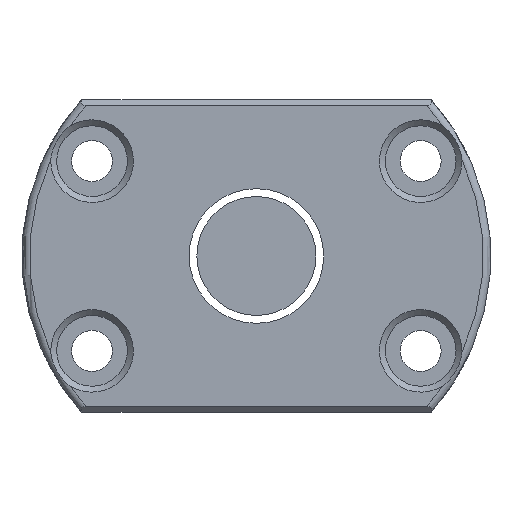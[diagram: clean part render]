
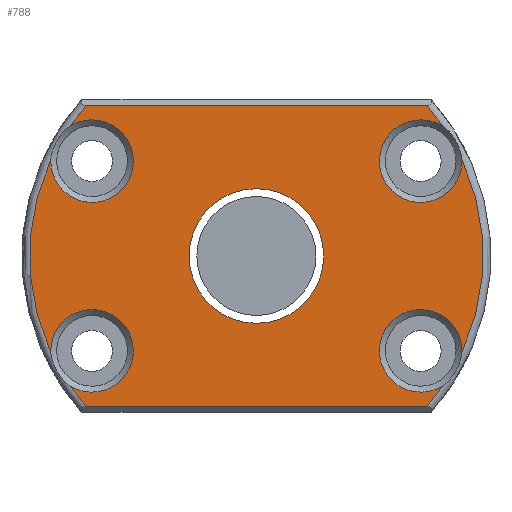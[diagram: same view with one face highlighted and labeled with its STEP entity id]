
A CAD part, left-side view. The second image highlights one B-rep face of the part: STEP entity #788.
In plain terms, the highlighted planar face has unit normal (-1, 0, 0).
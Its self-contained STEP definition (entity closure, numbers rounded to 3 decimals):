
#51 = VERTEX_POINT ( 'NONE', #1013 ) ;
#70 = VERTEX_POINT ( 'NONE', #2026 ) ;
#104 = EDGE_CURVE ( 'NONE', #590, #2678, #344, .T. ) ;
#113 = ORIENTED_EDGE ( 'NONE', *, *, #3161, .T. ) ;
#123 = DIRECTION ( 'NONE',  ( 1., 0., 0. ) ) ;
#129 = DIRECTION ( 'NONE',  ( 0., 0., 1. ) ) ;
#141 = VERTEX_POINT ( 'NONE', #2927 ) ;
#157 = ORIENTED_EDGE ( 'NONE', *, *, #1132, .T. ) ;
#214 = CIRCLE ( 'NONE', #276, 30.5 ) ;
#224 = CARTESIAN_POINT ( 'NONE',  ( -58., -24.999, 17.472 ) ) ;
#225 = VERTEX_POINT ( 'NONE', #2690 ) ;
#233 = AXIS2_PLACEMENT_3D ( 'NONE', #3248, #452, #1453 ) ;
#276 = AXIS2_PLACEMENT_3D ( 'NONE', #984, #2236, #1527 ) ;
#333 = EDGE_CURVE ( 'NONE', #1846, #51, #2723, .T. ) ;
#344 = CIRCLE ( 'NONE', #233, 30.5 ) ;
#371 = EDGE_CURVE ( 'NONE', #2119, #2119, #2615, .T. ) ;
#383 = VERTEX_POINT ( 'NONE', #2889 ) ;
#403 = CARTESIAN_POINT ( 'NONE',  ( -58., 24.999, -17.472 ) ) ;
#432 = AXIS2_PLACEMENT_3D ( 'NONE', #2472, #2984, #2939 ) ;
#452 = DIRECTION ( 'NONE',  ( -1., 0., 0. ) ) ;
#472 = CARTESIAN_POINT ( 'NONE',  ( -58., 22.084, -12.75 ) ) ;
#504 = CARTESIAN_POINT ( 'NONE',  ( -58., 0., 0. ) ) ;
#559 = CARTESIAN_POINT ( 'NONE',  ( -58., 0., -9.05 ) ) ;
#590 = VERTEX_POINT ( 'NONE', #2864 ) ;
#600 = CARTESIAN_POINT ( 'NONE',  ( -58., -27.631, -12.914 ) ) ;
#615 = LINE ( 'NONE', #1109, #2863 ) ;
#618 = CARTESIAN_POINT ( 'NONE',  ( -58., 27.631, -12.914 ) ) ;
#622 = ORIENTED_EDGE ( 'NONE', *, *, #104, .T. ) ;
#637 = CIRCLE ( 'NONE', #2121, 30.5 ) ;
#672 = DIRECTION ( 'NONE',  ( 1., 0., 0. ) ) ;
#723 = ORIENTED_EDGE ( 'NONE', *, *, #963, .T. ) ;
#788 = ADVANCED_FACE ( 'NONE', ( #2136, #1595 ), #1888, .T. ) ;
#803 = DIRECTION ( 'NONE',  ( 0., 0., 1. ) ) ;
#840 = DIRECTION ( 'NONE',  ( 0., 0., 1. ) ) ;
#878 = CARTESIAN_POINT ( 'NONE',  ( -58., 0., 0. ) ) ;
#906 = ORIENTED_EDGE ( 'NONE', *, *, #2434, .T. ) ;
#963 = EDGE_CURVE ( 'NONE', #2678, #2989, #1320, .T. ) ;
#965 = ORIENTED_EDGE ( 'NONE', *, *, #2693, .T. ) ;
#978 = DIRECTION ( 'NONE',  ( 0., -1., 0. ) ) ;
#984 = CARTESIAN_POINT ( 'NONE',  ( -58., 0., 0. ) ) ;
#997 = CARTESIAN_POINT ( 'NONE',  ( -58., 22.852, 20.2 ) ) ;
#1009 = VECTOR ( 'NONE', #978, 1000. ) ;
#1013 = CARTESIAN_POINT ( 'NONE',  ( -58., -22.852, 20.2 ) ) ;
#1031 = VERTEX_POINT ( 'NONE', #2250 ) ;
#1046 = CARTESIAN_POINT ( 'NONE',  ( -58., 0., 0. ) ) ;
#1076 = AXIS2_PLACEMENT_3D ( 'NONE', #2123, #1819, #1322 ) ;
#1109 = CARTESIAN_POINT ( 'NONE',  ( -58., 22.119, 20.2 ) ) ;
#1126 = DIRECTION ( 'NONE',  ( 0., 1., 0. ) ) ;
#1132 = EDGE_CURVE ( 'NONE', #1426, #141, #2650, .T. ) ;
#1149 = CARTESIAN_POINT ( 'NONE',  ( -58., 31.5, 0. ) ) ;
#1177 = LINE ( 'NONE', #1654, #1009 ) ;
#1182 = ORIENTED_EDGE ( 'NONE', *, *, #1591, .T. ) ;
#1208 = EDGE_CURVE ( 'NONE', #2417, #70, #1217, .T. ) ;
#1217 = CIRCLE ( 'NONE', #1378, 30.5 ) ;
#1320 = CIRCLE ( 'NONE', #1910, 5.55 ) ;
#1322 = DIRECTION ( 'NONE',  ( 0., 0., -1. ) ) ;
#1334 = CARTESIAN_POINT ( 'NONE',  ( -58., 0., 0. ) ) ;
#1378 = AXIS2_PLACEMENT_3D ( 'NONE', #1046, #2062, #803 ) ;
#1391 = DIRECTION ( 'NONE',  ( 0., 0., 1. ) ) ;
#1426 = VERTEX_POINT ( 'NONE', #600 ) ;
#1430 = EDGE_CURVE ( 'NONE', #51, #2417, #615, .T. ) ;
#1453 = DIRECTION ( 'NONE',  ( 0., 0., 1. ) ) ;
#1509 = DIRECTION ( 'NONE',  ( 0., 0., 1. ) ) ;
#1527 = DIRECTION ( 'NONE',  ( 0., 0., 1. ) ) ;
#1591 = EDGE_CURVE ( 'NONE', #2989, #1031, #637, .T. ) ;
#1595 = FACE_BOUND ( 'NONE', #2215, .T. ) ;
#1639 = CIRCLE ( 'NONE', #2866, 5.55 ) ;
#1654 = CARTESIAN_POINT ( 'NONE',  ( -58., -22.119, -20.2 ) ) ;
#1710 = AXIS2_PLACEMENT_3D ( 'NONE', #1334, #2102, #840 ) ;
#1749 = CARTESIAN_POINT ( 'NONE',  ( -58., 22.084, 12.75 ) ) ;
#1797 = AXIS2_PLACEMENT_3D ( 'NONE', #504, #2527, #1509 ) ;
#1819 = DIRECTION ( 'NONE',  ( 1., 0., 0. ) ) ;
#1846 = VERTEX_POINT ( 'NONE', #224 ) ;
#1864 = CARTESIAN_POINT ( 'NONE',  ( -58., -22.084, 12.75 ) ) ;
#1888 = PLANE ( 'NONE',  #2861 ) ;
#1895 = DIRECTION ( 'NONE',  ( -1., 0., 0. ) ) ;
#1910 = AXIS2_PLACEMENT_3D ( 'NONE', #472, #672, #3251 ) ;
#2026 = CARTESIAN_POINT ( 'NONE',  ( -58., 24.999, 17.472 ) ) ;
#2045 = ORIENTED_EDGE ( 'NONE', *, *, #333, .T. ) ;
#2062 = DIRECTION ( 'NONE',  ( -1., 0., 0. ) ) ;
#2078 = DIRECTION ( 'NONE',  ( 0., 0., 1. ) ) ;
#2100 = DIRECTION ( 'NONE',  ( -1., 0., 0. ) ) ;
#2102 = DIRECTION ( 'NONE',  ( -1., 0., 0. ) ) ;
#2119 = VERTEX_POINT ( 'NONE', #559 ) ;
#2121 = AXIS2_PLACEMENT_3D ( 'NONE', #878, #1895, #2078 ) ;
#2123 = CARTESIAN_POINT ( 'NONE',  ( -58., 0., 0. ) ) ;
#2136 = FACE_OUTER_BOUND ( 'NONE', #3243, .T. ) ;
#2215 = EDGE_LOOP ( 'NONE', ( #2552 ) ) ;
#2236 = DIRECTION ( 'NONE',  ( -1., 0., 0. ) ) ;
#2248 = ORIENTED_EDGE ( 'NONE', *, *, #1430, .T. ) ;
#2250 = CARTESIAN_POINT ( 'NONE',  ( -58., 22.852, -20.2 ) ) ;
#2252 = DIRECTION ( 'NONE',  ( 1., 0., 0. ) ) ;
#2287 = AXIS2_PLACEMENT_3D ( 'NONE', #1864, #123, #1391 ) ;
#2290 = CIRCLE ( 'NONE', #432, 5.55 ) ;
#2417 = VERTEX_POINT ( 'NONE', #997 ) ;
#2434 = EDGE_CURVE ( 'NONE', #70, #590, #1639, .T. ) ;
#2468 = ORIENTED_EDGE ( 'NONE', *, *, #2493, .T. ) ;
#2472 = CARTESIAN_POINT ( 'NONE',  ( -58., -22.084, -12.75 ) ) ;
#2492 = CIRCLE ( 'NONE', #2287, 5.55 ) ;
#2493 = EDGE_CURVE ( 'NONE', #225, #383, #214, .T. ) ;
#2527 = DIRECTION ( 'NONE',  ( -1., 0., 0. ) ) ;
#2552 = ORIENTED_EDGE ( 'NONE', *, *, #371, .T. ) ;
#2599 = ORIENTED_EDGE ( 'NONE', *, *, #1208, .T. ) ;
#2615 = CIRCLE ( 'NONE', #1076, 9.05 ) ;
#2650 = CIRCLE ( 'NONE', #1797, 30.5 ) ;
#2678 = VERTEX_POINT ( 'NONE', #618 ) ;
#2690 = CARTESIAN_POINT ( 'NONE',  ( -58., -22.852, -20.2 ) ) ;
#2693 = EDGE_CURVE ( 'NONE', #141, #1846, #2492, .T. ) ;
#2723 = CIRCLE ( 'NONE', #1710, 30.5 ) ;
#2807 = ORIENTED_EDGE ( 'NONE', *, *, #3118, .T. ) ;
#2861 = AXIS2_PLACEMENT_3D ( 'NONE', #1149, #2100, #129 ) ;
#2863 = VECTOR ( 'NONE', #1126, 1000. ) ;
#2864 = CARTESIAN_POINT ( 'NONE',  ( -58., 27.631, 12.914 ) ) ;
#2866 = AXIS2_PLACEMENT_3D ( 'NONE', #1749, #2252, #3254 ) ;
#2889 = CARTESIAN_POINT ( 'NONE',  ( -58., -24.999, -17.472 ) ) ;
#2927 = CARTESIAN_POINT ( 'NONE',  ( -58., -27.631, 12.914 ) ) ;
#2939 = DIRECTION ( 'NONE',  ( 0., 0., 1. ) ) ;
#2984 = DIRECTION ( 'NONE',  ( 1., 0., 0. ) ) ;
#2989 = VERTEX_POINT ( 'NONE', #403 ) ;
#3118 = EDGE_CURVE ( 'NONE', #1031, #225, #1177, .T. ) ;
#3161 = EDGE_CURVE ( 'NONE', #383, #1426, #2290, .T. ) ;
#3243 = EDGE_LOOP ( 'NONE', ( #1182, #2807, #2468, #113, #157, #965, #2045, #2248, #2599, #906, #622, #723 ) ) ;
#3248 = CARTESIAN_POINT ( 'NONE',  ( -58., 0., 0. ) ) ;
#3251 = DIRECTION ( 'NONE',  ( 0., 0., 1. ) ) ;
#3254 = DIRECTION ( 'NONE',  ( 0., 0., 1. ) ) ;
